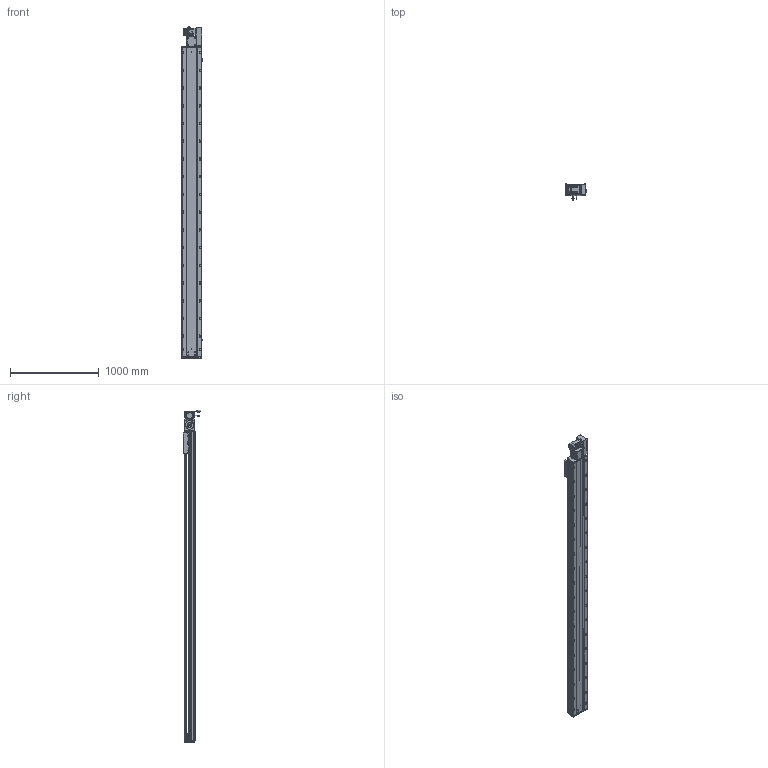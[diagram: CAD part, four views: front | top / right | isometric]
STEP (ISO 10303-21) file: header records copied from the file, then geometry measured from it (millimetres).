
FILE_DESCRIPTION (( 'STEP AP203' ), '1' );
FILE_NAME ('RY220-T-300-RK.SLDASM_3150.step', '2022-07-25T08:26:02', ( '' ), ( '' ), 'SwSTEP 2.0', 'SolidWorks 2016', '' );
FILE_SCHEMA (( 'CONFIG_CONTROL_DESIGN' ));
Length unit declared in the file: millimetre
Products named in the file (14): RY220翋肮祭謫裔啣; RY220-T-300-RK.SLDASM_3150; RY220-同步轮副支撑座6304×2; RY220-T-蛌殏萇儂假蚾啣(750W); RY220-T-湍謫欶(鍼踢); RY220-T-300-奻裔啣_3150; 覜茼ん672; 怢湛750W_ECMA-CX0807ES; 110A-T-肮祭謫釱傷裔; RY220圉猾敕々湍臏賑輸; 滅袉蝶18-15; RY220翋肮祭謫釱; RY220-俋离672覜茼んえ; RY220-T菁釱-300_3150
Assembly tree (18 placements, depth 2):
  RY220-T-300-RK.SLDASM_3150
    RY220-T菁釱-300_3150
    RY220翋肮祭謫釱
    覜茼ん672  x3
    RY220圉猾敕々湍臏賑輸
    RY220-T-300-奻裔啣_3150
    RY220-俋离672覜茼んえ
    滅袉蝶18-15  x3
    RY220翋肮祭謫裔啣  x2
    110A-T-肮祭謫釱傷裔
    怢湛750W_ECMA-CX0807ES
    RY220-T-湍謫欶(鍼踢)
    RY220-T-蛌殏萇儂假蚾啣(750W)
    RY220-同步轮副支撑座6304×2
Bounding box: 238.7 x 198.77 x 3745.24 mm (x, y, z)
Volume: 26173895.3 mm3; surface area: 8115781.6 mm2
Topology: 19 solids, 19 shells, 3066 faces, 8483 edges, 5302 vertices
Faces by surface type: cylinder 1522, plane 1069, cone 393, bspline 56, sphere 16, torus 10
Entity records: 102243 total; most frequent: CARTESIAN_POINT 28783, ORIENTED_EDGE 15162, DIRECTION 14688, EDGE_CURVE 7581, AXIS2_PLACEMENT_3D 5316, VERTEX_POINT 4926, LINE 4056, VECTOR 4056
